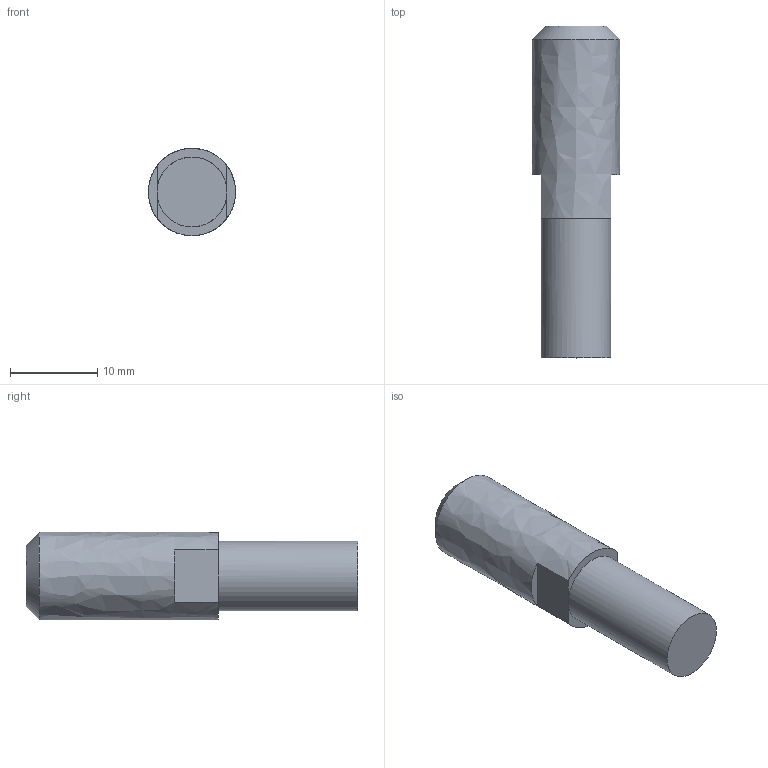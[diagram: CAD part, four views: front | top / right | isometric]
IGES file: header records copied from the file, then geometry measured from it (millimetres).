
Global section: file name: 1325_032_17F; native system: Autodesk Inventor 2014; preprocessor: unknown; author: A. Manieri; organization: Pneumax S.p.A.; date: 20161007.094004; units: millimetre
Bounding box: 10 x 38 x 10 mm (x, y, z)
Volume: 2459.7 mm3; surface area: 1215.6 mm2
Topology: 1 solids, 1 shells, 11 faces, 26 edges, 17 vertices
Faces by surface type: bspline 11
